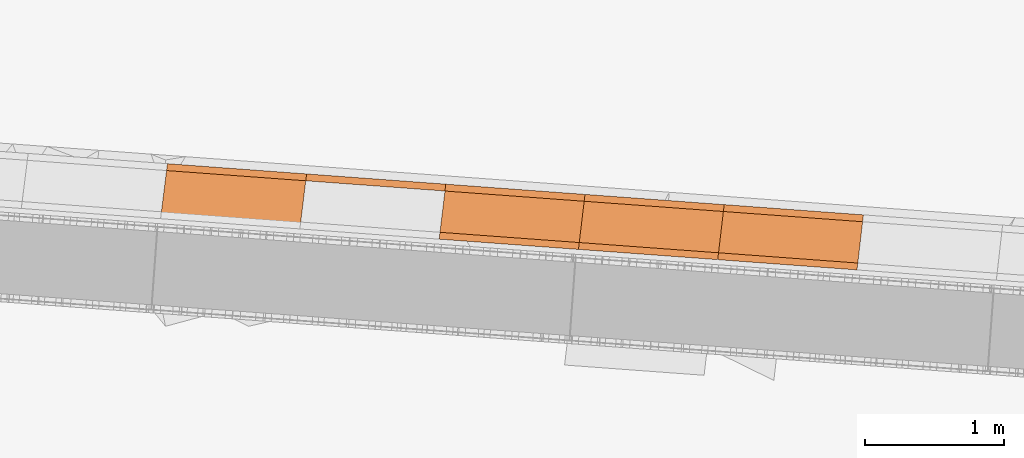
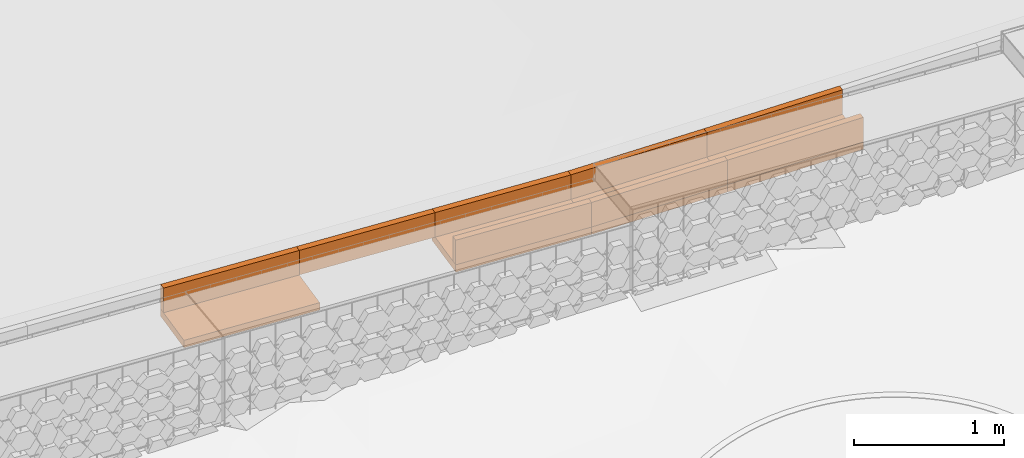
# Not in any storey, part 30 of 45: 12 proxies.
"""IFC4 model written with IfcOpenShell, lengths in metres."""

import ifcopenshell
import ifcopenshell.guid

model = None  # the IFC model being written
_history = None  # IfcOwnerHistory: only IFC2X3 demands one
_inside = {}  # id of a spatial element -> (the spatial element, [elements in it])
_under = {}  # id of a project, library or spatial element -> (it, [spatial elements below it])
_declared = {}  # id of a project -> (the project, [libraries it declares])
_typed = {}  # id of a type object -> (the type object, [elements of that type])
_made_of = {}  # id of a material, layer set ... -> (it, [elements and type objects made of it])


def new_model(schema):
    """Start an empty IFC model of exactly this schema.

    Asked for "IFC4X3", IfcOpenShell would pick the latest addendum, in which some entities
    have other attributes; the version numbers below select the first issue.
    IFC2X3 requires an IfcOwnerHistory on every rooted entity: one is made here for all.
    """
    global model, _history
    if schema == "IFC4X3":
        model = ifcopenshell.file(schema_version=(4, 3, 0, 0))
    else:
        model = ifcopenshell.file(schema=schema)
    _inside.clear()
    _under.clear()
    _declared.clear()
    _typed.clear()
    _made_of.clear()
    _history = None
    if model.schema == "IFC2X3":
        org = make("IfcOrganization", Name="unknown")
        user = make(
            "IfcPersonAndOrganization",
            ThePerson=make("IfcPerson", FamilyName="unknown"),
            TheOrganization=org,
        )
        app = make(
            "IfcApplication",
            ApplicationDeveloper=org,
            Version="unknown",
            ApplicationFullName="unknown",
            ApplicationIdentifier="unknown",
        )
        _history = make(
            "IfcOwnerHistory",
            OwningUser=user,
            OwningApplication=app,
            ChangeAction="ADDED",
            CreationDate=0,
        )
    return model


def make(cls, **values):
    """One entity of the class cls with the attributes given. An attribute that is None is left unset."""
    return model.create_entity(
        cls, **{name: value for name, value in values.items() if value is not None}
    )


def rooted(cls, **values):
    """An entity with a GlobalId (a new one), such as an element, a storey or a relation."""
    return make(cls, GlobalId=ifcopenshell.guid.new(), OwnerHistory=_history, **values)


def si_unit(unit_type, name, prefix=None):
    """IfcSIUnit, for example si_unit("LENGTHUNIT", "METRE", prefix="MILLI")."""
    return make("IfcSIUnit", UnitType=unit_type, Prefix=prefix, Name=name)


def assignment(units):
    """IfcUnitAssignment: the units of a project."""
    return None if units is None else make("IfcUnitAssignment", Units=units)


def point(xyz):
    """IfcCartesianPoint."""
    return None if xyz is None else make("IfcCartesianPoint", Coordinates=xyz)


def direction(xyz):
    """IfcDirection."""
    return None if xyz is None else make("IfcDirection", DirectionRatios=xyz)


def frame(location, z_axis=None, x_axis=None):
    """IfcAxis2Placement3D, a coordinate frame: its origin and axes. An axis left out is left unset."""
    return make(
        "IfcAxis2Placement3D",
        Location=point(location),
        Axis=direction(z_axis),
        RefDirection=direction(x_axis),
    )


def origin_with_axes():
    """The frame at (0, 0, 0) with the z axis (0, 0, 1) and the x axis (1, 0, 0) written out."""
    return frame((0.0, 0.0, 0.0), z_axis=(0.0, 0.0, 1.0), x_axis=(1.0, 0.0, 0.0))


def place(relative_to, where):
    """IfcLocalPlacement: puts the frame where relative to a parent placement (None: the world)."""
    return make(
        "IfcLocalPlacement", PlacementRelTo=relative_to, RelativePlacement=where
    )


def context(
    kind, dimensions, precision=None, world=None, true_north=None, identifier=None
):
    """IfcGeometricRepresentationContext, for example the 3D "Model" context."""
    return make(
        "IfcGeometricRepresentationContext",
        ContextIdentifier=identifier,
        ContextType=kind,
        CoordinateSpaceDimension=dimensions,
        Precision=precision,
        WorldCoordinateSystem=world,
        TrueNorth=true_north,
    )


def subcontext(parent, identifier, kind, view, scale=None):
    """IfcGeometricRepresentationSubContext, for example "Body" below "Model"."""
    return make(
        "IfcGeometricRepresentationSubContext",
        ContextIdentifier=identifier,
        ContextType=kind,
        ParentContext=parent,
        TargetScale=scale,
        TargetView=view,
    )


def project(units=None, contexts=None):
    """IfcProject with its units and contexts."""
    return rooted(
        "IfcProject",
        Name="project",
        RepresentationContexts=contexts,
        UnitsInContext=assignment(units),
    )


def spatial(cls, under=None, at=None, **own):
    """A site, building, storey or space (cls), placed at a placement, below another one or the project."""
    s = rooted(cls, ObjectPlacement=at, **own)
    if under is not None:
        _under.setdefault(under.id(), (under, []))[1].append(s)
    return s


def point_list(points):
    """IfcCartesianPointList2D or 3D."""
    cls = (
        "IfcCartesianPointList2D" if len(points[0]) == 2 else "IfcCartesianPointList3D"
    )
    return make(cls, CoordList=points)


def polygons(points, faces, closed=None, point_numbers=None):
    """IfcPolygonalFaceSet: a face is its outer loop, then its inner loops; points numbered from 1."""
    made = []
    for loops in faces:
        if len(loops) == 1:
            made.append(make("IfcIndexedPolygonalFace", CoordIndex=loops[0]))
        else:
            made.append(
                make(
                    "IfcIndexedPolygonalFaceWithVoids",
                    CoordIndex=loops[0],
                    InnerCoordIndices=loops[1:],
                )
            )
    return make(
        "IfcPolygonalFaceSet",
        Coordinates=point_list(points),
        Closed=closed,
        Faces=made,
        PnIndex=point_numbers,
    )


def shape(context_of_items, identifier, shape_type, items):
    """IfcShapeRepresentation: the items that make up one representation, for example the "Body"."""
    return make(
        "IfcShapeRepresentation",
        ContextOfItems=context_of_items,
        RepresentationIdentifier=identifier,
        RepresentationType=shape_type,
        Items=items,
    )


def material(Name=None, Category=None):
    """IfcMaterial."""
    return make("IfcMaterial", Name=Name, Category=Category)


def made_of(thing, what):
    """Note that an element or type object is made of a material, layer set ...; save() writes the relation."""
    if what is not None:
        _made_of.setdefault(what.id(), (what, []))[1].append(thing)
    return thing


def element(
    cls,
    number,
    at=None,
    inside=None,
    cuts=None,
    type_object=None,
    material=None,
    context=None,
    identifier="Body",
    shape_type=None,
    held_by="IfcProductDefinitionShape",
    body=None,
    shapes=None,
    **own,
):
    """One element of the class cls, such as IfcWall. Its Tag is "e" and its number.

    at: its placement. inside: the storey or other place that contains it. cuts: it is an
    opening in that element (IfcRelVoidsElement). A single representation is given by context,
    identifier, shape_type and body (its items); several are given by shapes. held_by: the class
    of the entity that holds the representations. save() writes the other relations.
    """
    e = rooted(cls, Tag="e%d" % number, ObjectPlacement=at, **own)
    if body is not None:
        shapes = [shape(context, identifier, shape_type, body)]
    if shapes is not None:
        e.Representation = make(held_by, Representations=shapes)
    if inside is not None:
        _inside.setdefault(inside.id(), (inside, []))[1].append(e)
    if cuts is not None:
        rooted(
            "IfcRelVoidsElement", RelatingBuildingElement=cuts, RelatedOpeningElement=e
        )
    if type_object is not None:
        _typed.setdefault(type_object.id(), (type_object, []))[1].append(e)
    return made_of(e, material)


def aggregate(whole, parts):
    """IfcRelAggregates: a whole, such as a stair, and the parts it consists of."""
    return rooted("IfcRelAggregates", RelatingObject=whole, RelatedObjects=parts)


def save(model, path):
    """Write the relations noted so far, then the file.

    IfcRelAggregates (storeys below a building ...), IfcRelContainedInSpatialStructure (elements
    in a storey), IfcRelDefinesByType, IfcRelAssociatesMaterial and IfcRelDeclares: one each for
    every whole, place, type object, material and project.
    """
    for whole, parts in _under.values():
        aggregate(whole, parts)
    for where, things in _inside.values():
        rooted(
            "IfcRelContainedInSpatialStructure",
            RelatedElements=things,
            RelatingStructure=where,
        )
    for kind, things in _typed.values():
        rooted("IfcRelDefinesByType", RelatedObjects=things, RelatingType=kind)
    for what, things in _made_of.values():
        rooted("IfcRelAssociatesMaterial", RelatedObjects=things, RelatingMaterial=what)
    for by, libraries in _declared.values():
        rooted("IfcRelDeclares", RelatingContext=by, RelatedDefinitions=libraries)
    model.write(path)


model = new_model("IFC4")

# Units and contexts
model_context = context("Model", 3, precision=1e-05, world=origin_with_axes(), true_north=direction((0.0, 1.0)))
body_context = subcontext(model_context, "Body", "Model", "MODEL_VIEW")
ifc_project = project(units=[si_unit("VOLUMEUNIT", "CUBIC_METRE"), si_unit("LENGTHUNIT", "METRE"), si_unit("AREAUNIT", "SQUARE_METRE")], contexts=[model_context])

# Site
site_placement = place(None, origin_with_axes())
site = spatial("IfcSite", under=ifc_project, at=site_placement, Name="Lares · Rua das Mercês · artigo 4771")

# Proxies
ifc_material = material(Name="Caleiras · betão", Category="concrete")
proxy_1_placement = place(site_placement, frame((0.0, 0.0, 0.0), z_axis=(0.0, 0.0, 1.0), x_axis=(1.0, -1.03767253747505e-17, 0.0)))
element("IfcBuildingElementProxy", 1, at=proxy_1_placement, inside=site, material=ifc_material, Name="Acesso · canal lateral", ObjectType="Acesso · canal lateral", PredefinedType="USERDEFINED", context=body_context, shape_type="Tessellation", body=[
    polygons([(64.6577203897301, 1.41694982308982, 15.236), (64.707040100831, 1.8138976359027, 15.236), (65.7117872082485, 1.74001230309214, 15.237), (65.6624674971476, 1.34306449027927, 15.237), (64.6577203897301, 1.41694982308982, 15.296), (64.707040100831, 1.8138976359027, 15.296), (65.7117872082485, 1.74001230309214, 15.297), (65.6624674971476, 1.34306449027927, 15.297)], [[[4, 3, 2, 1]], [[5, 6, 7, 8]], [[1, 2, 6, 5]], [[2, 3, 7, 6]], [[3, 4, 8, 7]], [[4, 1, 5, 8]]]),
])
proxy_2_placement = place(site_placement, frame((0.0, 0.0, 0.0), z_axis=(0.0, 0.0, 1.0), x_axis=(1.0, -1.03767253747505e-17, 0.0)))
element("IfcBuildingElementProxy", 2, at=proxy_2_placement, inside=site, material=ifc_material, Name="Acesso · canal lateral", ObjectType="Acesso · canal lateral", PredefinedType="USERDEFINED", context=body_context, shape_type="Tessellation", body=[
    polygons([(64.7008751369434, 1.76427915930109, 15.296), (64.707040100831, 1.8138976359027, 15.296), (65.7117872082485, 1.74001230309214, 15.297), (65.7056222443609, 1.69039382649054, 15.297), (64.7008751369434, 1.76427915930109, 15.496), (64.707040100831, 1.8138976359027, 15.496), (65.7117872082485, 1.74001230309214, 15.497), (65.7056222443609, 1.69039382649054, 15.497)], [[[4, 3, 2, 1]], [[5, 6, 7, 8]], [[1, 2, 6, 5]], [[2, 3, 7, 6]], [[3, 4, 8, 7]], [[4, 1, 5, 8]]]),
])
proxy_3_placement = place(site_placement, frame((0.0, 0.0, 0.0), z_axis=(0.0, 0.0, 1.0), x_axis=(1.0, -1.03767253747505e-17, 0.0)))
element("IfcBuildingElementProxy", 3, at=proxy_3_placement, inside=site, material=ifc_material, Name="Acesso · canal lateral", ObjectType="Acesso · canal lateral", PredefinedType="USERDEFINED", context=body_context, shape_type="Tessellation", body=[
    polygons([(65.705365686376, 1.69042547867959, 15.297), (65.7114451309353, 1.74005450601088, 15.297), (66.7162053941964, 1.66616832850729, 15.298), (66.7101259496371, 1.61653930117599, 15.298), (65.705365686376, 1.69042547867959, 15.497), (65.7114451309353, 1.74005450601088, 15.497), (66.7162053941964, 1.66616832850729, 15.498), (66.7101259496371, 1.61653930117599, 15.498)], [[[4, 3, 2, 1]], [[5, 6, 7, 8]], [[1, 2, 6, 5]], [[2, 3, 7, 6]], [[3, 4, 8, 7]], [[4, 1, 5, 8]]]),
])
proxy_4_placement = place(site_placement, frame((0.0, 0.0, 0.0), z_axis=(0.0, 0.0, 1.0), x_axis=(1.0, -1.03767253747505e-17, 0.0)))
element("IfcBuildingElementProxy", 4, at=proxy_4_placement, inside=site, material=ifc_material, Name="Acesso · canal lateral", ObjectType="Acesso · canal lateral", PredefinedType="USERDEFINED", context=body_context, shape_type="Tessellation", body=[
    polygons([(66.6679222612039, 1.26909325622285, 15.238), (66.7158529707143, 1.66621118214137, 15.238), (67.7206269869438, 1.59232415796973, 15.239), (67.6726962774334, 1.19520623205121, 15.239), (66.6679222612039, 1.26909325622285, 15.298), (66.7158529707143, 1.66621118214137, 15.298), (67.7206269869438, 1.59232415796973, 15.299), (67.6726962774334, 1.19520623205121, 15.299)], [[[4, 3, 2, 1]], [[5, 6, 7, 8]], [[1, 2, 6, 5]], [[2, 3, 7, 6]], [[3, 4, 8, 7]], [[4, 1, 5, 8]]]),
])
proxy_5_placement = place(site_placement, frame((0.0, 0.0, 0.0), z_axis=(0.0, 0.0, 1.0), x_axis=(1.0, -1.03767253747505e-17, 0.0)))
element("IfcBuildingElementProxy", 5, at=proxy_5_placement, inside=site, material=ifc_material, Name="Acesso · canal lateral", ObjectType="Acesso · canal lateral", PredefinedType="USERDEFINED", context=body_context, shape_type="Tessellation", body=[
    polygons([(66.6679222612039, 1.26909325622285, 15.298), (66.6739135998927, 1.31873299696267, 15.298), (67.6786876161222, 1.24484597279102, 15.299), (67.6726962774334, 1.19520623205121, 15.299), (66.6679222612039, 1.26909325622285, 15.498), (66.6739135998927, 1.31873299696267, 15.498), (67.6786876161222, 1.24484597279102, 15.499), (67.6726962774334, 1.19520623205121, 15.499)], [[[4, 3, 2, 1]], [[5, 6, 7, 8]], [[1, 2, 6, 5]], [[2, 3, 7, 6]], [[3, 4, 8, 7]], [[4, 1, 5, 8]]]),
])
proxy_6_placement = place(site_placement, frame((0.0, 0.0, 0.0), z_axis=(0.0, 0.0, 1.0), x_axis=(1.0, -1.03767253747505e-17, 0.0)))
element("IfcBuildingElementProxy", 6, at=proxy_6_placement, inside=site, material=ifc_material, Name="Acesso · canal lateral", ObjectType="Acesso · canal lateral", PredefinedType="USERDEFINED", context=body_context, shape_type="Tessellation", body=[
    polygons([(66.7098616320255, 1.61657144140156, 15.298), (66.7158529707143, 1.66621118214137, 15.298), (67.7206269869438, 1.59232415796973, 15.299), (67.714635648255, 1.54268441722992, 15.299), (66.7098616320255, 1.61657144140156, 15.498), (66.7158529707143, 1.66621118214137, 15.498), (67.7206269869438, 1.59232415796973, 15.499), (67.714635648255, 1.54268441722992, 15.499)], [[[4, 3, 2, 1]], [[5, 6, 7, 8]], [[1, 2, 6, 5]], [[2, 3, 7, 6]], [[3, 4, 8, 7]], [[4, 1, 5, 8]]]),
])
proxy_7_placement = place(site_placement, frame((0.0, 0.0, 0.0), z_axis=(0.0, 0.0, 1.0), x_axis=(1.0, -1.03767253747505e-17, 0.0)))
element("IfcBuildingElementProxy", 7, at=proxy_7_placement, inside=site, material=ifc_material, Name="Acesso · canal lateral", ObjectType="Acesso · canal lateral", PredefinedType="USERDEFINED", context=body_context, shape_type="Tessellation", body=[
    polygons([(67.6730595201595, 1.19516272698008, 15.239), (67.7202637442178, 1.59236766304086, 15.239), (68.7250521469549, 1.5184797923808, 15.2766969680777), (68.6778479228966, 1.12127485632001, 15.2766969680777), (67.6730595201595, 1.19516272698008, 15.299), (67.7202637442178, 1.59236766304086, 15.299), (68.7250521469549, 1.5184797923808, 15.3366969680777), (68.6778479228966, 1.12127485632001, 15.3366969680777)], [[[4, 3, 2, 1]], [[5, 6, 7, 8]], [[1, 2, 6, 5]], [[2, 3, 7, 6]], [[3, 4, 8, 7]], [[4, 1, 5, 8]]]),
])
proxy_8_placement = place(site_placement, frame((0.0, 0.0, 0.0), z_axis=(0.0, 0.0, 1.0), x_axis=(1.0, -1.03767253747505e-17, 0.0)))
element("IfcBuildingElementProxy", 8, at=proxy_8_placement, inside=site, material=ifc_material, Name="Acesso · canal lateral", ObjectType="Acesso · canal lateral", PredefinedType="USERDEFINED", context=body_context, shape_type="Tessellation", body=[
    polygons([(67.6730595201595, 1.19516272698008, 15.299), (67.6789600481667, 1.24481334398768, 15.299), (68.6837484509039, 1.17092547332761, 15.3366969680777), (68.6778479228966, 1.12127485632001, 15.3366969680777), (67.6730595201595, 1.19516272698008, 15.499), (67.6789600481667, 1.24481334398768, 15.499), (68.6837484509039, 1.17092547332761, 15.5366969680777), (68.6778479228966, 1.12127485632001, 15.5366969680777)], [[[4, 3, 2, 1]], [[5, 6, 7, 8]], [[1, 2, 6, 5]], [[2, 3, 7, 6]], [[3, 4, 8, 7]], [[4, 1, 5, 8]]]),
])
proxy_9_placement = place(site_placement, frame((0.0, 0.0, 0.0), z_axis=(0.0, 0.0, 1.0), x_axis=(1.0, -1.03767253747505e-17, 0.0)))
element("IfcBuildingElementProxy", 9, at=proxy_9_placement, inside=site, material=ifc_material, Name="Acesso · canal lateral", ObjectType="Acesso · canal lateral", PredefinedType="USERDEFINED", context=body_context, shape_type="Tessellation", body=[
    polygons([(67.7143632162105, 1.54271704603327, 15.299), (67.7202637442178, 1.59236766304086, 15.299), (68.7250521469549, 1.5184797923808, 15.3366969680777), (68.7191516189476, 1.4688291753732, 15.3366969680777), (67.7143632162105, 1.54271704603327, 15.499), (67.7202637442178, 1.59236766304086, 15.499), (68.7250521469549, 1.5184797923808, 15.5366969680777), (68.7191516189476, 1.4688291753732, 15.5366969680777)], [[[4, 3, 2, 1]], [[5, 6, 7, 8]], [[1, 2, 6, 5]], [[2, 3, 7, 6]], [[3, 4, 8, 7]], [[4, 1, 5, 8]]]),
])
proxy_10_placement = place(site_placement, frame((0.0, 0.0, 0.0), z_axis=(0.0, 0.0, 1.0), x_axis=(1.0, -1.03767253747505e-17, 0.0)))
element("IfcBuildingElementProxy", 10, at=proxy_10_placement, inside=site, material=ifc_material, Name="Acesso · canal lateral", ObjectType="Acesso · canal lateral", PredefinedType="USERDEFINED", context=body_context, shape_type="Tessellation", body=[
    polygons([(68.6782224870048, 1.12123070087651, 15.2766969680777), (68.7246775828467, 1.5185239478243, 15.2766969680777), (69.7294810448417, 1.44463523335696, 15.3190598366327), (69.6830259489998, 1.04734198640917, 15.3190598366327), (68.6782224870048, 1.12123070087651, 15.3366969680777), (68.7246775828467, 1.5185239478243, 15.3366969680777), (69.7294810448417, 1.44463523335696, 15.3790598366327), (69.6830259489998, 1.04734198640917, 15.3790598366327)], [[[4, 3, 2, 1]], [[5, 6, 7, 8]], [[1, 2, 6, 5]], [[2, 3, 7, 6]], [[3, 4, 8, 7]], [[4, 1, 5, 8]]]),
])
proxy_11_placement = place(site_placement, frame((0.0, 0.0, 0.0), z_axis=(0.0, 0.0, 1.0), x_axis=(1.0, -1.03767253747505e-17, 0.0)))
element("IfcBuildingElementProxy", 11, at=proxy_11_placement, inside=site, material=ifc_material, Name="Acesso · canal lateral", ObjectType="Acesso · canal lateral", PredefinedType="USERDEFINED", context=body_context, shape_type="Tessellation", body=[
    polygons([(68.6782224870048, 1.12123070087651, 15.3366969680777), (68.6840293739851, 1.17089235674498, 15.3366969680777), (69.6888328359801, 1.09700364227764, 15.3790598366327), (69.6830259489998, 1.04734198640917, 15.3790598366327), (68.6782224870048, 1.12123070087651, 15.5366969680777), (68.6840293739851, 1.17089235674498, 15.5366969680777), (69.6888328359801, 1.09700364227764, 15.5790598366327), (69.6830259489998, 1.04734198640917, 15.5790598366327)], [[[4, 3, 2, 1]], [[5, 6, 7, 8]], [[1, 2, 6, 5]], [[2, 3, 7, 6]], [[3, 4, 8, 7]], [[4, 1, 5, 8]]]),
])
proxy_12_placement = place(site_placement, frame((0.0, 0.0, 0.0), z_axis=(0.0, 0.0, 1.0), x_axis=(1.0, -1.03767253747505e-17, 0.0)))
element("IfcBuildingElementProxy", 12, at=proxy_12_placement, inside=site, material=ifc_material, Name="Acesso · canal lateral", ObjectType="Acesso · canal lateral", PredefinedType="USERDEFINED", context=body_context, shape_type="Tessellation", body=[
    polygons([(68.7188706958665, 1.46886229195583, 15.3366969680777), (68.7246775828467, 1.5185239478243, 15.3366969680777), (69.7294810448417, 1.44463523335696, 15.3790598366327), (69.7236741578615, 1.39497357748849, 15.3790598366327), (68.7188706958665, 1.46886229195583, 15.5366969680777), (68.7246775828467, 1.5185239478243, 15.5366969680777), (69.7294810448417, 1.44463523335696, 15.5790598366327), (69.7236741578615, 1.39497357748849, 15.5790598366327)], [[[4, 3, 2, 1]], [[5, 6, 7, 8]], [[1, 2, 6, 5]], [[2, 3, 7, 6]], [[3, 4, 8, 7]], [[4, 1, 5, 8]]]),
])

save(model, "model.ifc")
